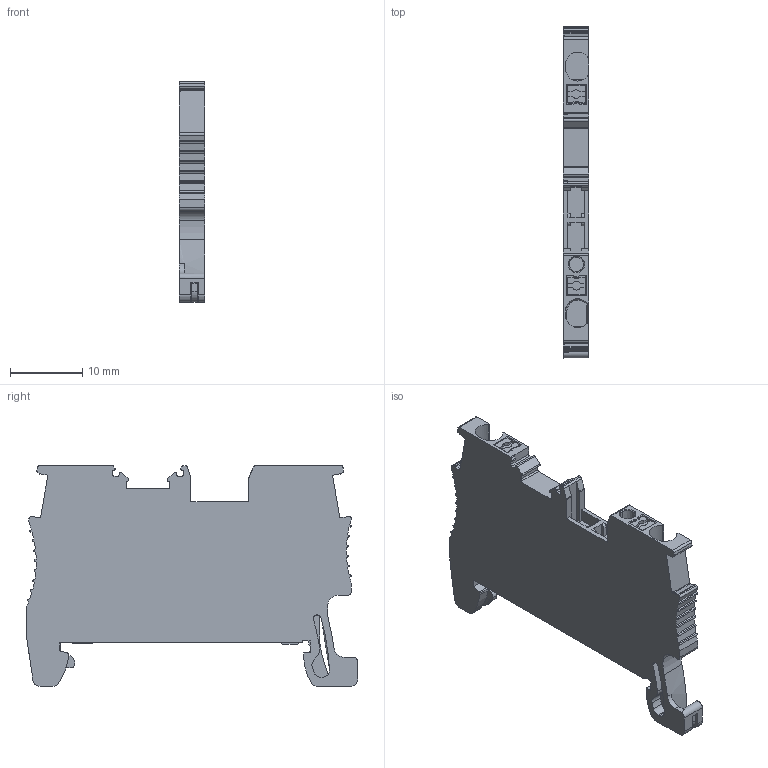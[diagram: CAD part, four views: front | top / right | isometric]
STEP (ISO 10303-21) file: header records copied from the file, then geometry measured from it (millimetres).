
FILE_DESCRIPTION (( 'STEP AP214' ), '1' );
FILE_NAME ('VPR-1.5-PE.STEP', '2026-03-30T14:17:17', ( '' ), ( '' ), 'SwSTEP 2.0', 'SolidWorks 2022', '' );
FILE_SCHEMA (( 'AUTOMOTIVE_DESIGN' ));
Length unit declared in the file: millimetre
Products named in the file (1): VPR-1.5-PE
Bounding box: 3.5 x 45.9 x 30.52 mm (x, y, z)
Volume: 3373.7 mm3; surface area: 3224.9 mm2
Topology: 1 solids, 1 shells, 478 faces, 1391 edges, 914 vertices
Faces by surface type: plane 301, cylinder 170, cone 5, bspline 2
Entity records: 16776 total; most frequent: CARTESIAN_POINT 3043, ORIENTED_EDGE 2782, DIRECTION 2610, EDGE_CURVE 1391, LINE 982, VECTOR 982, VERTEX_POINT 914, AXIS2_PLACEMENT_3D 814
